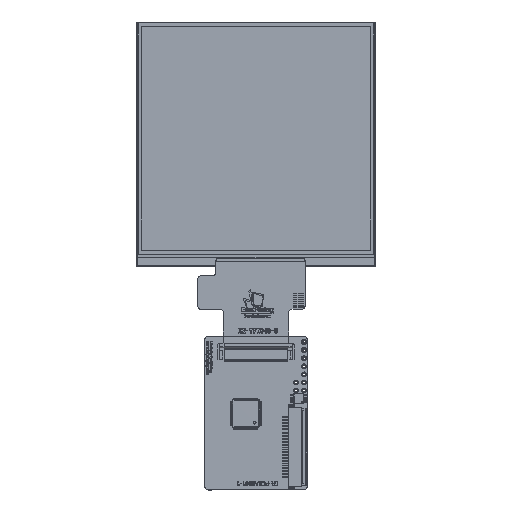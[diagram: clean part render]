
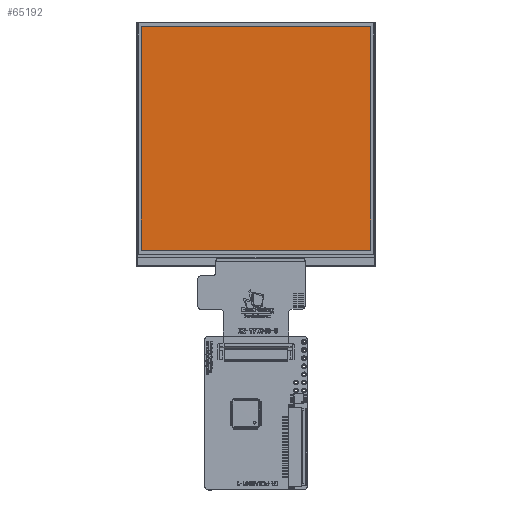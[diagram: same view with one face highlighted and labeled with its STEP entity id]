
A CAD part, top view. The second image highlights one B-rep face of the part: STEP entity #65192.
In plain terms, the highlighted planar face has unit normal (0, 0, 1).
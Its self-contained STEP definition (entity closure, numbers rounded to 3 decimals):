
#11994 = CARTESIAN_POINT ( 'NONE',  ( 0., -33.21, 2.08 ) ) ;
#21160 = CARTESIAN_POINT ( 'NONE',  ( 0., 36.97, 2.08 ) ) ;
#28306 = AXIS2_PLACEMENT_3D ( 'NONE', #35048, #216337, #57357 ) ;
#35048 = CARTESIAN_POINT ( 'NONE',  ( 0., 0., 2.08 ) ) ;
#38090 = VERTEX_POINT ( 'NONE', #230012 ) ;
#51486 = FACE_OUTER_BOUND ( 'NONE', #227912, .T. ) ;
#57357 = DIRECTION ( 'NONE',  ( 1., 0., 0. ) ) ;
#65192 = ADVANCED_FACE ( 'NONE', ( #51486 ), #231325, .T. ) ;
#66782 = VERTEX_POINT ( 'NONE', #233837 ) ;
#74746 = ORIENTED_EDGE ( 'NONE', *, *, #116044, .F. ) ;
#93510 = VECTOR ( 'NONE', #183130, 1000. ) ;
#104359 = ORIENTED_EDGE ( 'NONE', *, *, #207060, .F. ) ;
#116044 = EDGE_CURVE ( 'NONE', #135807, #38090, #236325, .T. ) ;
#122726 = CARTESIAN_POINT ( 'NONE',  ( -35.93, 36.97, 2.08 ) ) ;
#122829 = EDGE_CURVE ( 'NONE', #38090, #245425, #240363, .T. ) ;
#133137 = CARTESIAN_POINT ( 'NONE',  ( 35.93, 0., 2.08 ) ) ;
#135807 = VERTEX_POINT ( 'NONE', #293381 ) ;
#174574 = VECTOR ( 'NONE', #215522, 1000. ) ;
#175965 = VECTOR ( 'NONE', #179402, 1000. ) ;
#179402 = DIRECTION ( 'NONE',  ( 0., 1., 0. ) ) ;
#183130 = DIRECTION ( 'NONE',  ( 1., 0., 0. ) ) ;
#207060 = EDGE_CURVE ( 'NONE', #66782, #135807, #273837, .T. ) ;
#215522 = DIRECTION ( 'NONE',  ( -1., 0., 0. ) ) ;
#216337 = DIRECTION ( 'NONE',  ( 0., 0., 1. ) ) ;
#218057 = CARTESIAN_POINT ( 'NONE',  ( -35.93, 0., 2.08 ) ) ;
#223795 = DIRECTION ( 'NONE',  ( 0., -1., 0. ) ) ;
#223814 = ORIENTED_EDGE ( 'NONE', *, *, #232797, .F. ) ;
#226101 = ORIENTED_EDGE ( 'NONE', *, *, #122829, .F. ) ;
#227912 = EDGE_LOOP ( 'NONE', ( #226101, #74746, #104359, #223814 ) ) ;
#230012 = CARTESIAN_POINT ( 'NONE',  ( -35.93, -33.21, 2.08 ) ) ;
#231325 = PLANE ( 'NONE',  #28306 ) ;
#232797 = EDGE_CURVE ( 'NONE', #245425, #66782, #272236, .T. ) ;
#233837 = CARTESIAN_POINT ( 'NONE',  ( 35.93, 36.97, 2.08 ) ) ;
#236325 = LINE ( 'NONE', #11994, #174574 ) ;
#240363 = LINE ( 'NONE', #218057, #175965 ) ;
#245425 = VERTEX_POINT ( 'NONE', #122726 ) ;
#266688 = VECTOR ( 'NONE', #223795, 1000. ) ;
#272236 = LINE ( 'NONE', #21160, #93510 ) ;
#273837 = LINE ( 'NONE', #133137, #266688 ) ;
#293381 = CARTESIAN_POINT ( 'NONE',  ( 35.93, -33.21, 2.08 ) ) ;
